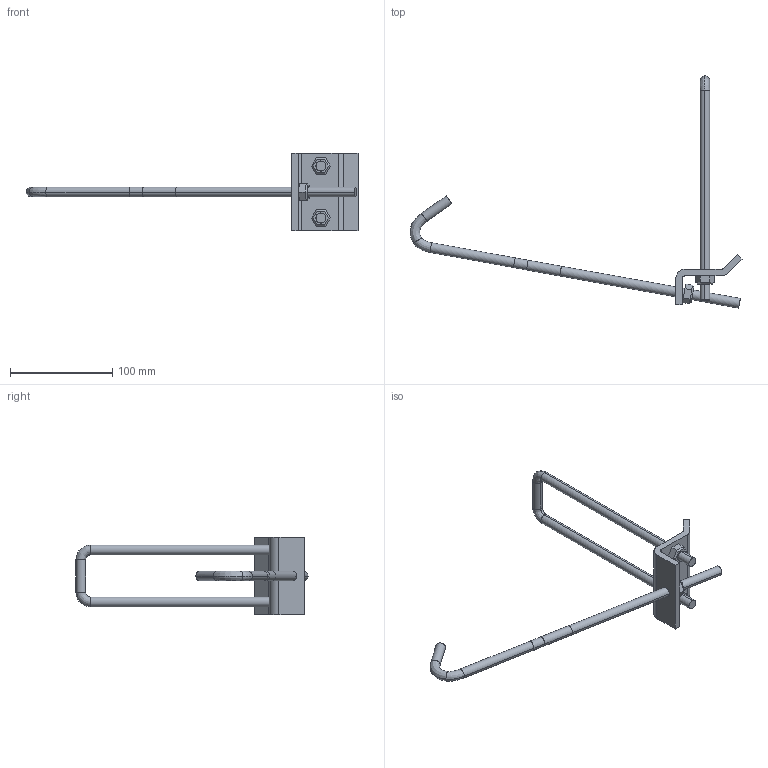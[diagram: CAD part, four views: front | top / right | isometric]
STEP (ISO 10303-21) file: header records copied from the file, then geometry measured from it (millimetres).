
FILE_DESCRIPTION(('TurboCAD Mac Pro'),'Build 980');
FILE_NAME('P2867B-12.stp',' ',(''),(''),'ACIS Interop','IMSI','TurboCAD Mac Pro BY IMSI, INCORPORATED');
FILE_SCHEMA(('automotive_design'));
Length unit declared in the file: inch
Products named in the file (6): 1; 2; 3; 4; 5; 6
Bounding box: 324.58 x 226.95 x 76.2 mm (x, y, z)
Volume: 109098.3 mm3; surface area: 45139.6 mm2
Topology: 6 solids, 6 shells, 100 faces, 226 edges, 138 vertices
Faces by surface type: plane 56, bspline 24, cylinder 20
Entity records: 5640 total; most frequent: CARTESIAN_POINT 1602, ORIENTED_EDGE 452, DIRECTION 382, STYLED_ITEM 304, PRESENTATION_STYLE_ASSIGNMENT 304, COLOUR_RGB 304, EDGE_CURVE 226, CURVE_STYLE 198
